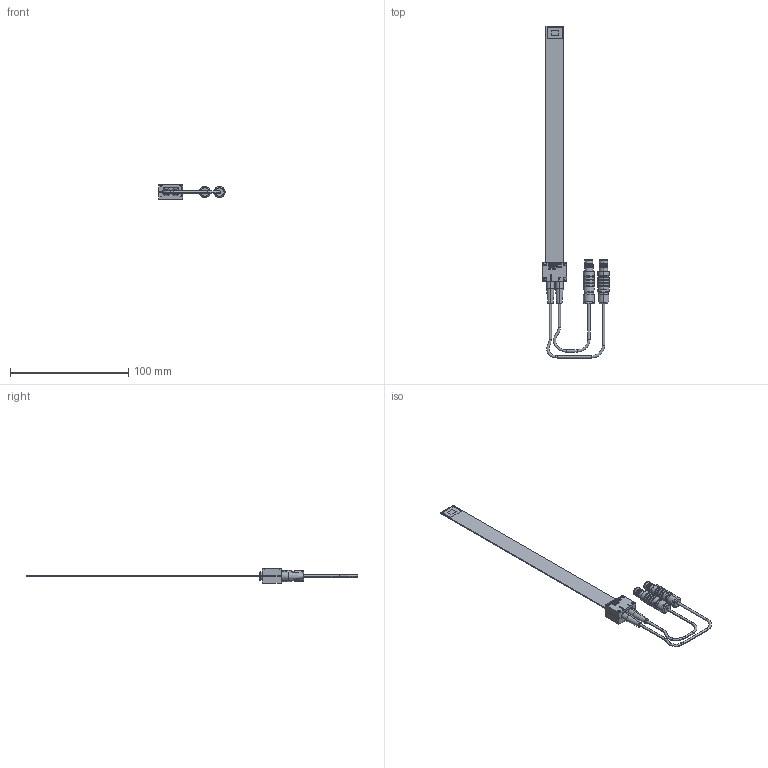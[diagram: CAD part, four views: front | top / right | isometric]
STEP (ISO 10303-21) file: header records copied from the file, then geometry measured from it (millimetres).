
FILE_DESCRIPTION((''),'2;1');
FILE_NAME('Z6610111-A_ASM','2011-05-30T',('11000065'),(''),'PRO/ENGINEER BY PARAMETRIC TECHNOLOGY CORPORATION, 2010480','PRO/ENGINEER BY PARAMETRIC TECHNOLOGY CORPORATION, 2010480','');
FILE_SCHEMA(('AUTOMOTIVE_DESIGN { 1 0 10303 214 1 1 1 1 }'));
Length unit declared in the file: millimetre
Products named in the file (9): ZT_22049_A; ZT_22050_A; PLATINE-1_0; HULESE; KABEL_AF0; KABEL2_AF0; 0323139; DIN963-M1_6X10; Z6610111-A_ASM
Assembly tree (13 placements, depth 2):
  Z6610111-A_ASM
    ZT_22049_A
    ZT_22050_A
    PLATINE-1_0
    HULESE  x2
    KABEL_AF0
    KABEL2_AF0
    0323139  x2
    DIN963-M1_6X10  x4
Bounding box: 56 x 281 x 12.07 mm (x, y, z)
Volume: 11005.4 mm3; surface area: 15062.2 mm2
Topology: 13 solids, 13 shells, 1567 faces, 4248 edges, 2778 vertices
Faces by surface type: plane 1301, cylinder 126, cone 80, torus 52, bspline 8
Entity records: 59301 total; most frequent: CARTESIAN_POINT 8935, ORIENTED_EDGE 7878, DIRECTION 7056, PRESENTATION_STYLE_ASSIGNMENT 4095, STYLED_ITEM 3948, CURVE_STYLE 3939, EDGE_CURVE 3939, VECTOR 3656
